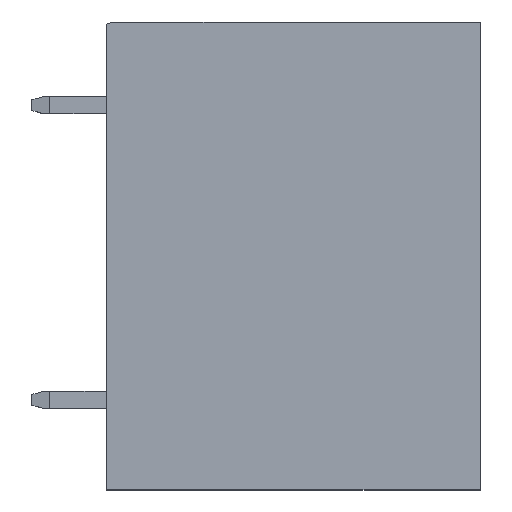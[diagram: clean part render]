
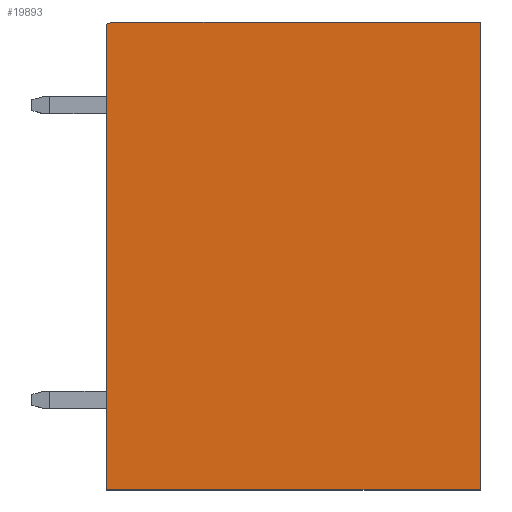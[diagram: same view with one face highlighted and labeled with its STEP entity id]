
A CAD part, top view. The second image highlights one B-rep face of the part: STEP entity #19893.
In plain terms, the highlighted planar face has unit normal (0, 0, 1).
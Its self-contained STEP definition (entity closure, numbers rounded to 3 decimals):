
#662=DIRECTION('',(-1.,0.,0.));
#663=VECTOR('',#662,17.5);
#664=CARTESIAN_POINT('',(8.45,-11.275,9.7));
#665=LINE('',#664,#663);
#670=DIRECTION('',(0.,1.,0.));
#671=VECTOR('',#670,21.8);
#672=CARTESIAN_POINT('',(-9.05,-11.275,9.7));
#673=LINE('',#672,#671);
#6076=DIRECTION('',(-1.,0.,0.));
#6077=VECTOR('',#6076,17.2);
#6078=CARTESIAN_POINT('',(8.45,10.625,9.7));
#6079=LINE('',#6078,#6077);
#6080=DIRECTION('',(0.,1.,0.));
#6081=VECTOR('',#6080,21.9);
#6082=CARTESIAN_POINT('',(8.45,-11.275,9.7));
#6083=LINE('',#6082,#6081);
#6084=DIRECTION('',(-0.949,-0.316,0.));
#6085=VECTOR('',#6084,0.316);
#6086=CARTESIAN_POINT('',(-8.75,10.625,9.7));
#6087=LINE('',#6086,#6085);
#9587=CARTESIAN_POINT('',(8.45,-11.275,9.7));
#9588=CARTESIAN_POINT('',(8.45,10.625,9.7));
#9589=VERTEX_POINT('',#9587);
#9590=VERTEX_POINT('',#9588);
#9695=CARTESIAN_POINT('',(-8.75,10.625,9.7));
#9696=VERTEX_POINT('',#9695);
#9705=CARTESIAN_POINT('',(-9.05,-11.275,9.7));
#9706=VERTEX_POINT('',#9705);
#9707=CARTESIAN_POINT('',(-9.05,10.525,9.7));
#9708=VERTEX_POINT('',#9707);
#19881=CARTESIAN_POINT('',(0.,0.,9.7));
#19882=DIRECTION('',(0.,0.,1.));
#19883=DIRECTION('',(1.,0.,0.));
#19884=AXIS2_PLACEMENT_3D('',#19881,#19882,#19883);
#19885=PLANE('',#19884);
#19886=ORIENTED_EDGE('',*,*,#15766,.F.);
#19887=ORIENTED_EDGE('',*,*,#11913,.F.);
#19888=ORIENTED_EDGE('',*,*,#12086,.T.);
#19889=ORIENTED_EDGE('',*,*,#12105,.T.);
#19890=ORIENTED_EDGE('',*,*,#19874,.F.);
#19891=EDGE_LOOP('',(#19886,#19887,#19888,#19889,#19890));
#19892=FACE_OUTER_BOUND('',#19891,.F.);
#19893=ADVANCED_FACE('',(#19892),#19885,.T.);
#11913=EDGE_CURVE('',#9589,#9590,#6083,.T.);
#12086=EDGE_CURVE('',#9589,#9706,#665,.T.);
#12105=EDGE_CURVE('',#9706,#9708,#673,.T.);
#15766=EDGE_CURVE('',#9590,#9696,#6079,.T.);
#19874=EDGE_CURVE('',#9696,#9708,#6087,.T.);
